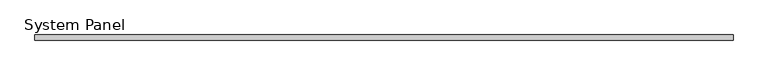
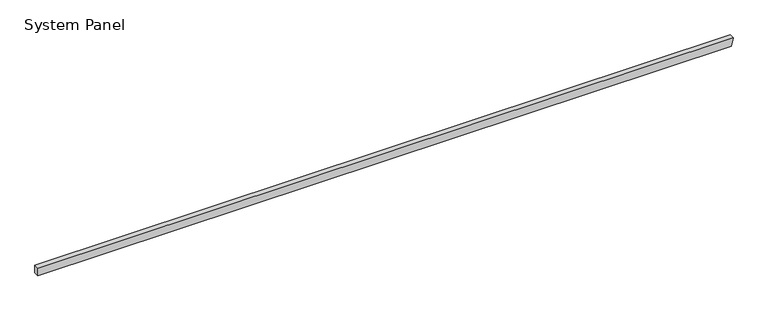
"""IFC4 building model written with IfcOpenShell, lengths in millimetres: plate geometry, System Panel : Equitilt_FlameGuard_50mm_Plain_Surfmist."""

from ifc_helpers import new_model, si_unit, frame, origin, place, context, project, spatial, polyline, outline, extrude, source, transform, mapped, element, save


def system_panel_7c3fa75b(model_context):
    return source(origin(), model_context, "Body", "SweptSolid", [
        extrude(outline(polyline([(0.0, -3395.0), (0.0, 3377.6149856), (79.9704237, 3395.0), (79.9704237, -3395.0), (0.0, -3395.0)])), frame((0.0, -50.0, 0.0), z_axis=(0.0, 1.0, 0.0), x_axis=(0.0, 0.0, 1.0)), (0.0, 0.0, 1.0), 50.0),
    ])


if __name__ == "__main__":
    model = new_model("IFC4")
    model_context = context("Model", 3, world=origin())
    ifc_project = project(units=[si_unit("LENGTHUNIT", "METRE", prefix="MILLI")], contexts=[model_context])
    site = spatial("IfcSite", under=ifc_project)
    building = spatial("IfcBuilding", under=site)
    placement = place(None, origin())
    system_panel_shape = system_panel_7c3fa75b(model_context)
    element("IfcPlate", 1, ObjectType="System Panel : Equitilt_FlameGuard_50mm_Plain_Surfmist", at=placement, inside=building, context=model_context, shape_type="MappedRepresentation", body=[
        mapped(system_panel_shape, transform((0.0, 0.0, 0.0), x_axis=(1.0, 0.0, 0.0), y_axis=(0.0, 1.0, 0.0), z_axis=(0.0, 0.0, 1.0))),
    ])
    save(model, "model.ifc")
